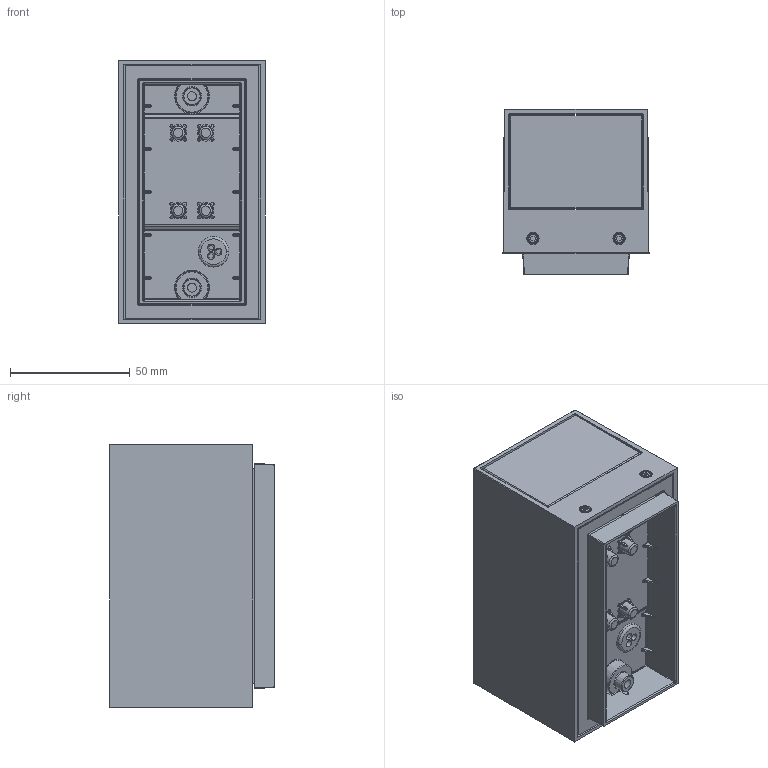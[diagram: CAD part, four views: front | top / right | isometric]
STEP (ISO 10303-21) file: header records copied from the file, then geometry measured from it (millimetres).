
FILE_DESCRIPTION((''),'2;1');
FILE_NAME('PRT0005','2025-06-30T10:09:45',('Piccioli'),(''),'CREO PARAMETRIC BY PTC INC, 2025010','CREO PARAMETRIC BY PTC INC, 2025010','');
FILE_SCHEMA(('CONFIG_CONTROL_DESIGN'));
Length unit declared in the file: millimetre
Products named in the file (1): PRT0005
Bounding box: 61.05 x 69 x 110.01 mm (x, y, z)
Surface area: 40317.1 mm2 (no closed solid volume)
Topology: 0 solids, 41 shells, 230 faces, 1121 edges, 930 vertices
Faces by surface type: plane 72, cone 58, bspline 54, cylinder 40, torus 6
Entity records: 19075 total; most frequent: CARTESIAN_POINT 11413, ORIENTED_EDGE 1384, DIRECTION 1279, EDGE_CURVE 1121, VERTEX_POINT 930, VECTOR 439, LINE 439, B_SPLINE_CURVE_WITH_KNOTS 438
